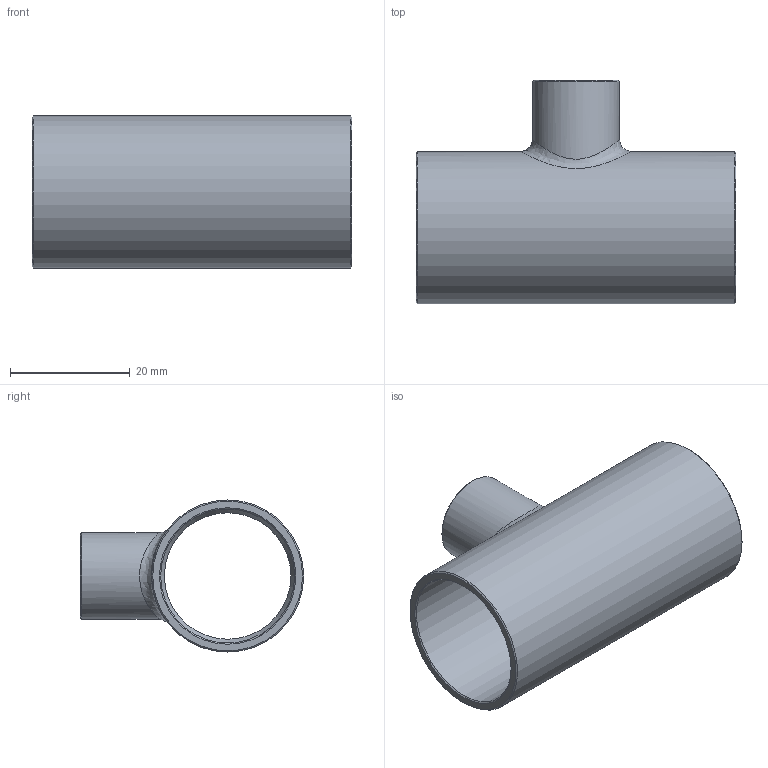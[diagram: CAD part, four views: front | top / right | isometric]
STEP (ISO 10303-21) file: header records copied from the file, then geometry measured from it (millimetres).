
FILE_DESCRIPTION((''),'2;1');
FILE_NAME('G:\SANHA-Ternat\Technik\Management\Bouwmaten + markeringen\z-maattekeningen 3D\29000s\29130781278_3d.stp','2017-08-07T12:41:15',('vdvijverd'),(''),'Autodesk Inventor 2009','Autodesk Inventor 2009','');
FILE_SCHEMA(('AUTOMOTIVE_DESIGN { 1 0 10303 214 1 1 1 1 }'));
Length unit declared in the file: millimetre
Products named in the file (1): 29130781278_3d
Bounding box: 53.4 x 37.3 x 25.4 mm (x, y, z)
Volume: 7182.1 mm3; surface area: 9034.8 mm2
Topology: 1 solids, 1 shells, 21 faces, 48 edges, 29 vertices
Faces by surface type: cone 8, cylinder 6, bspline 4, plane 3
Full cylindrical faces by diameter (mm): 11.82 x1, 12.82 x1, 14.5 x1, 21.12 x1, 22.375 x1, 25.4 x1
Entity records: 1742 total; most frequent: CARTESIAN_POINT 1356, DIRECTION 76, ORIENTED_EDGE 48, EDGE_LOOP 42, AXIS2_PLACEMENT_3D 38, EDGE_CURVE 24, VERTEX_POINT 22, FACE_OUTER_BOUND 21
